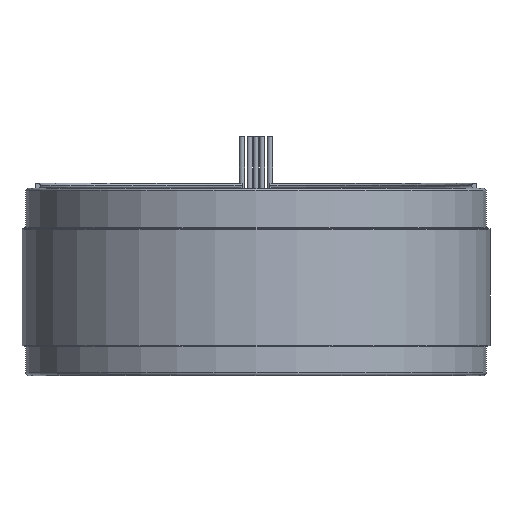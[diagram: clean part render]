
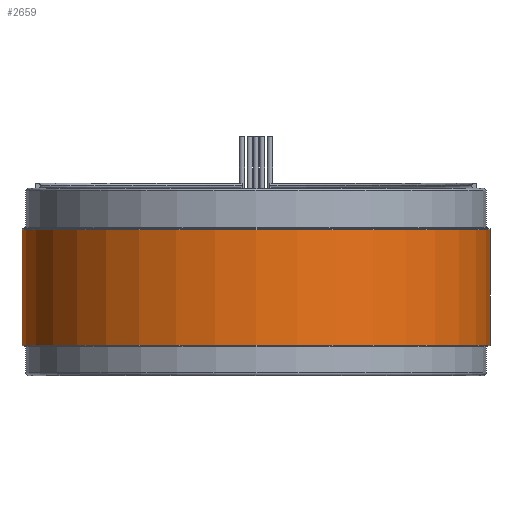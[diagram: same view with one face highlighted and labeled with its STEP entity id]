
A CAD part, front view. The second image highlights one B-rep face of the part: STEP entity #2659.
In plain terms, the highlighted cylindrical face has radius 114.3 mm (diameter 228.6 mm), a partial arc.
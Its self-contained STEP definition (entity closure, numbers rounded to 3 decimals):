
#45 = LINE ( 'NONE', #967, #841 ) ;
#54 = VERTEX_POINT ( 'NONE', #2259 ) ;
#242 = VERTEX_POINT ( 'NONE', #1379 ) ;
#259 = ORIENTED_EDGE ( 'NONE', *, *, #2927, .T. ) ;
#354 = ORIENTED_EDGE ( 'NONE', *, *, #1482, .F. ) ;
#691 = DIRECTION ( 'NONE',  ( 0., 0., -1. ) ) ;
#719 = CARTESIAN_POINT ( 'NONE',  ( 0., 0., 28.219 ) ) ;
#730 = DIRECTION ( 'NONE',  ( 0., 0., 1. ) ) ;
#828 = CARTESIAN_POINT ( 'NONE',  ( 0., 0., -28.219 ) ) ;
#841 = VECTOR ( 'NONE', #691, 1000. ) ;
#951 = CARTESIAN_POINT ( 'NONE',  ( 114.3, 0., 28.219 ) ) ;
#954 = CARTESIAN_POINT ( 'NONE',  ( 0., 0., 28.219 ) ) ;
#957 = FACE_OUTER_BOUND ( 'NONE', #1440, .T. ) ;
#967 = CARTESIAN_POINT ( 'NONE',  ( -114.3, 0., 28.219 ) ) ;
#983 = DIRECTION ( 'NONE',  ( 0., 0., -1. ) ) ;
#1053 = DIRECTION ( 'NONE',  ( 1., 0., 0. ) ) ;
#1117 = VERTEX_POINT ( 'NONE', #2939 ) ;
#1174 = AXIS2_PLACEMENT_3D ( 'NONE', #954, #730, #2593 ) ;
#1190 = VERTEX_POINT ( 'NONE', #2920 ) ;
#1379 = CARTESIAN_POINT ( 'NONE',  ( 114.3, 0., 28.219 ) ) ;
#1440 = EDGE_LOOP ( 'NONE', ( #1611, #354, #2297, #259 ) ) ;
#1482 = EDGE_CURVE ( 'NONE', #54, #242, #1577, .T. ) ;
#1491 = CYLINDRICAL_SURFACE ( 'NONE', #1702, 114.3 ) ;
#1577 = CIRCLE ( 'NONE', #1174, 114.3 ) ;
#1611 = ORIENTED_EDGE ( 'NONE', *, *, #2661, .F. ) ;
#1629 = AXIS2_PLACEMENT_3D ( 'NONE', #828, #2193, #1053 ) ;
#1634 = DIRECTION ( 'NONE',  ( 0., 0., -1. ) ) ;
#1702 = AXIS2_PLACEMENT_3D ( 'NONE', #719, #1634, #2096 ) ;
#1962 = VECTOR ( 'NONE', #983, 1000. ) ;
#2096 = DIRECTION ( 'NONE',  ( -1., 0., 0. ) ) ;
#2193 = DIRECTION ( 'NONE',  ( 0., 0., 1. ) ) ;
#2259 = CARTESIAN_POINT ( 'NONE',  ( -114.3, 0., 28.219 ) ) ;
#2297 = ORIENTED_EDGE ( 'NONE', *, *, #2646, .T. ) ;
#2428 = CIRCLE ( 'NONE', #1629, 114.3 ) ;
#2593 = DIRECTION ( 'NONE',  ( 1., 0., 0. ) ) ;
#2646 = EDGE_CURVE ( 'NONE', #54, #1190, #45, .T. ) ;
#2659 = ADVANCED_FACE ( 'NONE', ( #957 ), #1491, .T. ) ;
#2661 = EDGE_CURVE ( 'NONE', #242, #1117, #2822, .T. ) ;
#2822 = LINE ( 'NONE', #951, #1962 ) ;
#2920 = CARTESIAN_POINT ( 'NONE',  ( -114.3, 0., -28.219 ) ) ;
#2927 = EDGE_CURVE ( 'NONE', #1190, #1117, #2428, .T. ) ;
#2939 = CARTESIAN_POINT ( 'NONE',  ( 114.3, 0., -28.219 ) ) ;
